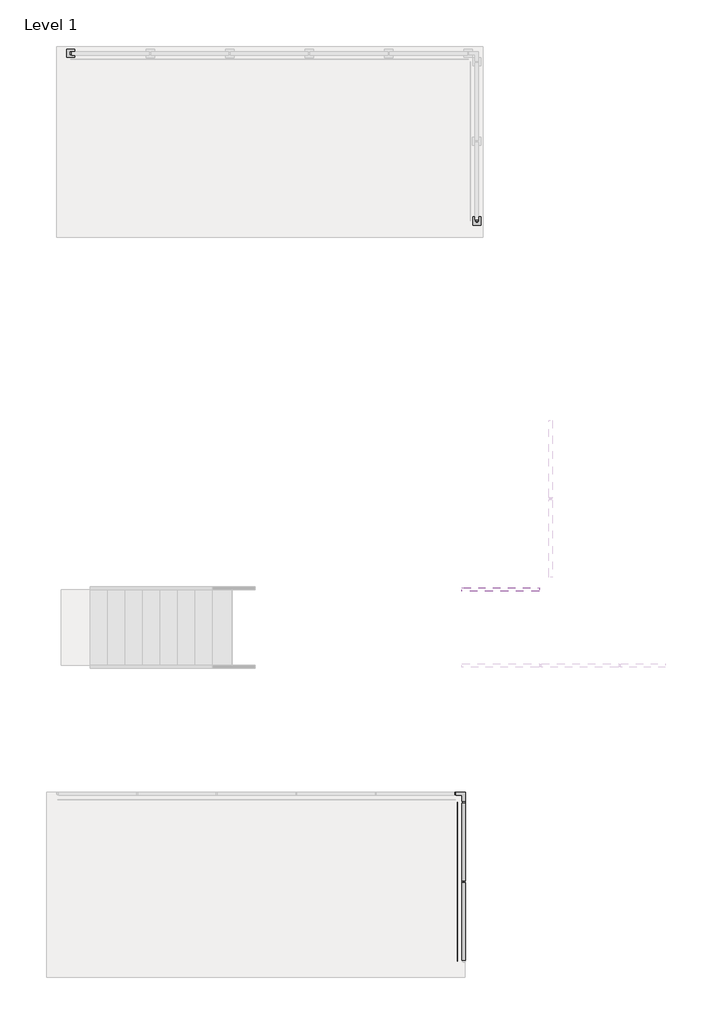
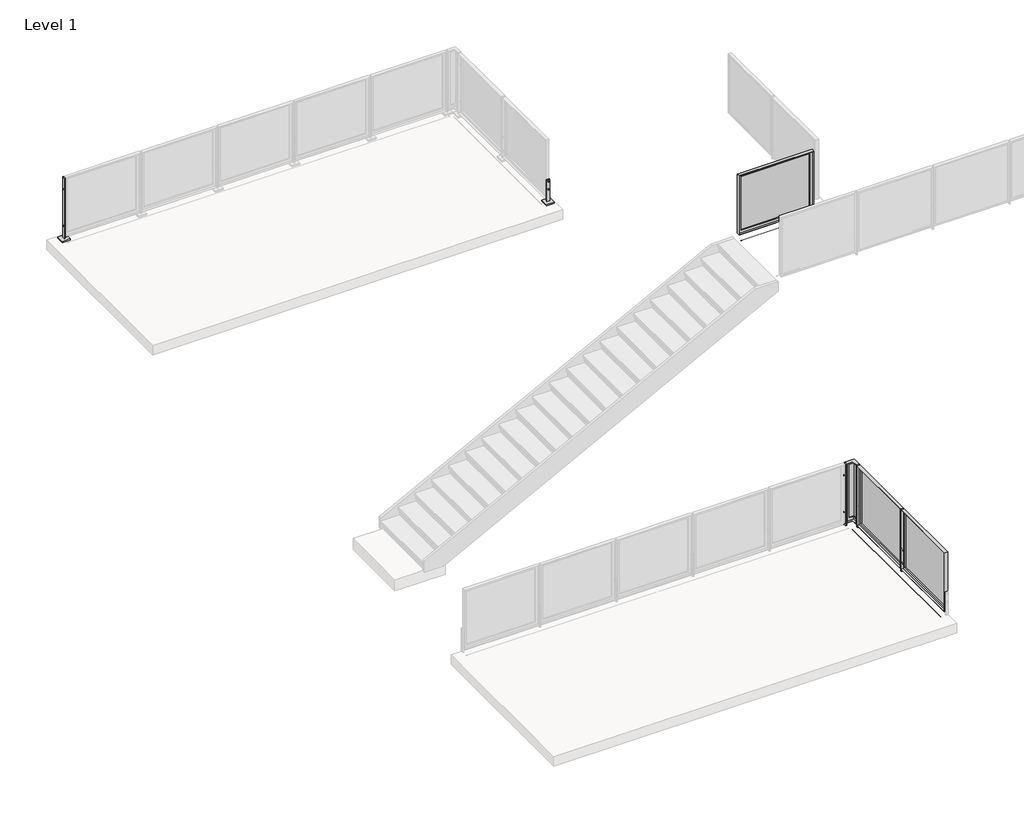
# One storey, part 3 of 37: 5 proxies, 3 railings.
"""IFC4 building model written with IfcOpenShell, lengths in millimetres."""

from ifc_helpers import new_model, si_unit, point, frame, frame_2d, origin, origin_with_axes, place, context, project, spatial, polyline, circle_curve, trimmed, segment, composite_curve, outline, extrude, faceted_brep, transform, mapped, element, save
from ifc_brep_helpers import plane_surface, cylinder_surface, advanced_brep
from components import baluster_end_post_viva_frame_top_mount_efd1a991, baluster_end_post_viva_frame_top_mount_8495f7c5, baluster_end_post_viva_frame_top_mount_welded_steel_channel_f5500c4d, baluster_end_post_viva_frame_top_mount_welded_steel_channel_d86172e0, baluster_corner_panel_viva_frame_inside_standard_6796b24e

model = new_model("IFC4")

# Units and contexts
model_context = context("Model", 3, world=origin())
ifc_project = project(units=[si_unit("LENGTHUNIT", "METRE", prefix="MILLI")], contexts=[model_context])

# Site, building, storey
site = spatial("IfcSite", under=ifc_project)
building = spatial("IfcBuilding", under=site)
storey = spatial("IfcBuildingStorey", under=building, Name="Level 1", Elevation=0.0)

# Proxies
placement = place(None, origin())
baluster_end_post_viva_frame_top_mount_shape = baluster_end_post_viva_frame_top_mount_efd1a991(model_context)
element("IfcBuildingElementProxy", 1, Name="Baluster-End-Post-VIVA-FRAME-Top Mount : ANCHORED TO CONCRETE_TOP MOUNT FOLD_STRAIGHT", ObjectType="Baluster-End-Post-VIVA-FRAME-Top Mount : ANCHORED TO CONCRETE_TOP MOUNT FOLD_STRAIGHT", at=placement, inside=storey, context=model_context, shape_type="MappedRepresentation", body=[
    mapped(baluster_end_post_viva_frame_top_mount_shape, transform((-32869.9472593, -24328.2049932, -0.508), x_axis=(0.0, 1.0, 0.0), y_axis=(-1.0, 0.0, 0.0), z_axis=(0.0, 0.0, 1.0))),
])
baluster_end_post_viva_frame_top_mount_2_shape = baluster_end_post_viva_frame_top_mount_8495f7c5(model_context)
element("IfcBuildingElementProxy", 2, Name="Baluster-End-Post-VIVA-FRAME-Top Mount : ANCHORED TO CONCRETE_TOP MOUNT FOLD_STRAIGHT", ObjectType="Baluster-End-Post-VIVA-FRAME-Top Mount : ANCHORED TO CONCRETE_TOP MOUNT FOLD_STRAIGHT", at=placement, inside=storey, context=model_context, shape_type="MappedRepresentation", body=[
    mapped(baluster_end_post_viva_frame_top_mount_2_shape, transform((-39257.4137821, -21750.6777859, -0.508), x_axis=(-1.0, 0.0, 0.0), y_axis=(0.0, -1.0, 0.0), z_axis=(0.0, 0.0, 1.0))),
])
baluster_end_post_viva_frame_top_mount_welded_steel_channel_shape = baluster_end_post_viva_frame_top_mount_welded_steel_channel_f5500c4d(model_context)
element("IfcBuildingElementProxy", 3, Name="Baluster-End-Post-VIVA-FRAME-Top Mount : WELDED STEEL CHANNEL_TOP MOUNT FOLD_STRAIGHT", ObjectType="Baluster-End-Post-VIVA-FRAME-Top Mount : WELDED STEEL CHANNEL_TOP MOUNT FOLD_STRAIGHT", at=placement, inside=storey, context=model_context, shape_type="MappedRepresentation", body=[
    mapped(baluster_end_post_viva_frame_top_mount_welded_steel_channel_shape, transform((-33077.7262871, -33609.5299436, -0.508), x_axis=(0.0, 1.0, 0.0), y_axis=(-1.0, 0.0, 0.0), z_axis=(0.0, 0.0, 1.0))),
])
baluster_end_post_viva_frame_top_mount_welded_steel_channel_2_shape = baluster_end_post_viva_frame_top_mount_welded_steel_channel_d86172e0(model_context)
element("IfcBuildingElementProxy", 4, Name="Baluster-End-Post-VIVA-FRAME-Top Mount : WELDED STEEL CHANNEL_TOP MOUNT FOLD_STRAIGHT", ObjectType="Baluster-End-Post-VIVA-FRAME-Top Mount : WELDED STEEL CHANNEL_TOP MOUNT FOLD_STRAIGHT", at=placement, inside=storey, context=model_context, shape_type="MappedRepresentation", body=[
    mapped(baluster_end_post_viva_frame_top_mount_welded_steel_channel_2_shape, transform((-33114.9234675, -33571.9733743, -0.508), x_axis=(-1.0, 0.0, 0.0), y_axis=(0.0, -1.0, 0.0), z_axis=(0.0, 0.0, 1.0))),
])
element("IfcBuildingElementProxy", 5, Name="Baluster-End-Post-VIVA-FRAME-Top Mount : WELDED STEEL CHANNEL_TOP MOUNT FOLD_STRAIGHT", ObjectType="Baluster-End-Post-VIVA-FRAME-Top Mount : WELDED STEEL CHANNEL_TOP MOUNT FOLD_STRAIGHT", at=placement, inside=storey, context=model_context, shape_type="MappedRepresentation", body=[
    mapped(baluster_end_post_viva_frame_top_mount_welded_steel_channel_2_shape, transform((-33114.9234675, -33571.9733743, -0.508), x_axis=(-1.0, 0.0, 0.0), y_axis=(0.0, -1.0, 0.0), z_axis=(0.0, 0.0, 1.0))),
])

# Railings
baluster_corner_panel_viva_frame_inside_standard_shape = baluster_corner_panel_viva_frame_inside_standard_6796b24e(model_context)
element("IfcRailing", 6, ObjectType="Baluster-Corner-Panel-VIVA-FRAME : Inside_Standard", at=placement, inside=storey, context=model_context, shape_type="MappedRepresentation", body=[
    mapped(baluster_corner_panel_viva_frame_inside_standard_shape, transform((-32954.9158871, -33449.1629743, -25.654), x_axis=(-1.0, 0.0, 0.0), y_axis=(0.0, -1.0, 0.0), z_axis=(0.0, 0.0, 1.0))),
])
element("IfcRailing", 7, ObjectType="Metal-Panel-VIVA-FRAME-Slab-Top-Weld-Straight", at=placement, inside=storey, context=model_context, shape_type="SolidModel", body=[
    extrude(outline(composite_curve([segment(trimmed(circle_curve(frame_2d((-0.254, -33077.7262871)), 0.254), [point((-0.254, -33077.9802871))], [point((-0.254, -33077.4722871))], False, "CARTESIAN"), True, "CONTINUOUS"), segment(trimmed(circle_curve(frame_2d((-0.254, -33077.7262871)), 0.254), [point((-0.254, -33077.4722871))], [point((-0.254, -33077.9802871))], False, "CARTESIAN"), True, "CONTINUOUS")], self_intersect=False)), frame((0.0, -36149.5299436, 0.0), z_axis=(0.0, 1.0, 0.0), x_axis=(0.0, 0.0, 1.0)), (0.0, 0.0, 1.0), 2540.0),
    extrude(outline(composite_curve([segment(trimmed(circle_curve(frame_2d((-0.254, -33077.7262871)), 0.254), [point((-0.254, -33077.9802871))], [point((-0.254, -33077.4722871))], False, "CARTESIAN"), True, "CONTINUOUS"), segment(trimmed(circle_curve(frame_2d((-0.254, -33077.7262871)), 0.254), [point((-0.254, -33077.4722871))], [point((-0.254, -33077.9802871))], False, "CARTESIAN"), True, "CONTINUOUS")], self_intersect=False)), frame((0.0, -36149.5299436, 0.0), z_axis=(0.0, 1.0, 0.0), x_axis=(0.0, 0.0, 1.0)), (0.0, 0.0, 1.0), 2540.0),
    extrude(outline(polyline([(-32954.9158871, -34920.3564006), (-32954.9158871, -36108.7034867), (-32957.9158871, -36108.7034867), (-32957.9158871, -34920.3564006), (-32954.9158871, -34920.3564006)])), frame((0.0, 0.0, 76.1959569), z_axis=(0.0, 0.0, 1.0), x_axis=(1.0, 0.0, 0.0)), (0.0, 0.0, 1.0), 990.5826861),
    faceted_brep([(-32954.9158871, -34894.9564006, 1092.1786431), (-32954.9158871, -36134.1034867, 1092.1786431), (-32954.9158871, -36134.1034867, 50.7959569), (-32954.9158871, -34894.9564006, 50.7959569), (-32954.9158871, -34920.3564006, 1066.7786431), (-32954.9158871, -34920.3564006, 76.1959569), (-32954.9158871, -36108.7034867, 76.1959569), (-32954.9158871, -36108.7034867, 1066.7786431), (-32957.9158871, -34920.3564006, 76.1959569), (-32957.9158871, -36108.7034867, 76.1959569), (-32957.9158871, -36108.7034867, 1066.7786431), (-32957.9158871, -34920.3564006, 1066.7786431), (-33008.7158871, -34900.9508006, 56.7903569), (-33008.7158871, -36128.1090867, 56.7903569), (-32977.9056871, -36128.1090867, 56.7903569), (-32977.9056871, -34900.9508006, 56.7903569), (-33008.7158871, -36128.1090867, 1086.1842431), (-32977.9056871, -36128.1090867, 1086.1842431), (-32977.9056871, -34900.9508006, 1086.1842431), (-33008.7158871, -34900.9508006, 1086.1842431), (-33008.7158871, -36134.1034867, 50.7959569), (-33008.7158871, -36134.1034867, 1092.1786431), (-33008.7158871, -34894.9564006, 1092.1786431), (-33008.7158871, -34894.9564006, 50.7959569), (-32957.9158871, -34945.7564006, 1041.3786431), (-32957.9158871, -34945.7564006, 101.5959569), (-32957.9158871, -36083.3034867, 101.5959569), (-32957.9158871, -36083.3034867, 1041.3786431), (-32977.9056871, -36083.3034867, 101.5959569), (-32977.9056871, -34945.7564006, 101.5959569), (-32977.9056871, -34945.7564006, 1041.3786431), (-32977.9056871, -36083.3034867, 1041.3786431)], [[[0, 1, 2, 3], [4, 5, 6, 7]], [[5, 8, 9, 6]], [[6, 9, 10, 7]], [[7, 10, 11, 4]], [[4, 11, 8, 5]], [[12, 13, 14, 15]], [[13, 16, 17, 14]], [[15, 18, 19, 12]], [[20, 21, 22, 23], [12, 19, 16, 13]], [[23, 22, 0, 3]], [[23, 3, 2, 20]], [[2, 1, 21, 20]], [[22, 21, 1, 0]], [[11, 10, 9, 8], [24, 25, 26, 27]], [[14, 17, 18, 15], [28, 29, 30, 31]], [[18, 17, 16, 19]], [[27, 31, 30, 24]], [[26, 28, 31, 27]], [[25, 29, 28, 26]], [[24, 30, 29, 25]]]),
    advanced_brep(
    [(-32981.8158871, -34853.3425436, 130.1496), (-32981.8158871, -34853.3425436, 139.7), (-32981.8158871, -34853.3425436, 149.2504), (-32981.8158871, -34858.1177436, 130.1496), (-32981.8158871, -34858.1177436, 149.2504), (-32981.8158871, -34858.1177436, 134.9248), (-32981.8158871, -34858.1177436, 144.4752), (-32981.8158871, -34900.9421436, 134.9248), (-32981.8158871, -34900.9421436, 144.4752), (-32981.8158871, -34900.9421436, 130.1496), (-32981.8158871, -34900.9421436, 149.2504), (-32981.8158871, -34905.7173436, 130.1496), (-32981.8158871, -34905.7173436, 149.2504), (-32981.8158871, -34905.7173436, 139.7)],
    [
        (0, 1),
        (1, 2),
        (2, 0, circle_curve(frame((-32981.8158871, -34853.3425436, 139.7), z_axis=(0.0, 1.0, 0.0), x_axis=(0.0, 0.0, 1.0)), 9.5504)),
        (0, 2, circle_curve(frame((-32981.8158871, -34853.3425436, 139.7), z_axis=(0.0, 1.0, 0.0), x_axis=(0.0, 0.0, 1.0)), 9.5504)),
        (3, 0),
        (2, 4),
        (4, 3, circle_curve(frame((-32981.8158871, -34858.1177436, 139.7), z_axis=(0.0, 1.0, 0.0), x_axis=(0.0, 0.0, 1.0)), 9.5504)),
        (3, 4, circle_curve(frame((-32981.8158871, -34858.1177436, 139.7), z_axis=(0.0, 1.0, 0.0), x_axis=(0.0, 0.0, 1.0)), 9.5504)),
        (5, 3),
        (4, 6),
        (6, 5, circle_curve(frame((-32981.8158871, -34858.1177436, 139.7), z_axis=(0.0, 1.0, 0.0), x_axis=(0.0, 0.0, 1.0)), 4.7752)),
        (5, 6, circle_curve(frame((-32981.8158871, -34858.1177436, 139.7), z_axis=(0.0, 1.0, 0.0), x_axis=(0.0, 0.0, 1.0)), 4.7752)),
        (7, 5),
        (6, 8),
        (8, 7, circle_curve(frame((-32981.8158871, -34900.9421436, 139.7), z_axis=(0.0, 1.0, 0.0), x_axis=(0.0, 0.0, 1.0)), 4.7752)),
        (7, 8, circle_curve(frame((-32981.8158871, -34900.9421436, 139.7), z_axis=(0.0, 1.0, 0.0), x_axis=(0.0, 0.0, 1.0)), 4.7752)),
        (9, 7),
        (8, 10),
        (10, 9, circle_curve(frame((-32981.8158871, -34900.9421436, 139.7), z_axis=(0.0, 1.0, 0.0), x_axis=(0.0, 0.0, 1.0)), 9.5504)),
        (9, 10, circle_curve(frame((-32981.8158871, -34900.9421436, 139.7), z_axis=(0.0, 1.0, 0.0), x_axis=(0.0, 0.0, 1.0)), 9.5504)),
        (11, 9),
        (10, 12),
        (12, 11, circle_curve(frame((-32981.8158871, -34905.7173436, 139.7), z_axis=(0.0, 1.0, 0.0), x_axis=(0.0, 0.0, 1.0)), 9.5504)),
        (11, 12, circle_curve(frame((-32981.8158871, -34905.7173436, 139.7), z_axis=(0.0, 1.0, 0.0), x_axis=(0.0, 0.0, 1.0)), 9.5504)),
        (13, 11),
        (12, 13),
    ],
    [
        plane_surface(frame((-32981.8158871, -34853.3425436, 139.7), z_axis=(0.0, 1.0, 0.0), x_axis=(0.0, 0.0, 1.0))),
        cylinder_surface(frame((-32981.8158871, -31461.7621865, 139.7), z_axis=(0.0, -1.0, 0.0), x_axis=(0.0, 0.0, 1.0)), 9.5504),
        plane_surface(frame((-32981.8158871, -34858.1177436, 139.7), z_axis=(0.0, -1.0, 0.0), x_axis=(0.0, 0.0, 1.0))),
        cylinder_surface(frame((-32981.8158871, -31461.7621865, 139.7), z_axis=(0.0, -1.0, 0.0), x_axis=(0.0, 0.0, 1.0)), 4.7752),
        plane_surface(frame((-32981.8158871, -34900.9421436, 139.7), z_axis=(0.0, 1.0, 0.0), x_axis=(0.0, 0.0, 1.0))),
        plane_surface(frame((-32981.8158871, -34905.7173436, 139.7), z_axis=(0.0, -1.0, 0.0), x_axis=(0.0, 0.0, 1.0))),
    ],
    [
        (0, [[1, 2, 3]]),
        (0, [[-2, -1, 4]]),
        (1, [[5, -3, 6, 7]]),
        (1, [[-6, -4, -5, 8]]),
        (2, [[9, -7, 10, 11]]),
        (2, [[-10, -8, -9, 12]]),
        (3, [[13, -11, 14, 15]]),
        (3, [[-14, -12, -13, 16]]),
        (4, [[17, -15, 18, 19]]),
        (4, [[-18, -16, -17, 20]]),
        (1, [[21, -19, 22, 23]]),
        (1, [[-22, -20, -21, 24]]),
        (5, [[25, -23, 26]]),
        (5, [[-26, -24, -25]]),
    ],
),
    advanced_brep(
    [(-32981.8158871, -34853.3425436, 371.4496), (-32981.8158871, -34853.3425436, 381.0), (-32981.8158871, -34853.3425436, 390.5504), (-32981.8158871, -34858.1177436, 371.4496), (-32981.8158871, -34858.1177436, 390.5504), (-32981.8158871, -34858.1177436, 376.2248), (-32981.8158871, -34858.1177436, 385.7752), (-32981.8158871, -34900.9421436, 376.2248), (-32981.8158871, -34900.9421436, 385.7752), (-32981.8158871, -34900.9421436, 371.4496), (-32981.8158871, -34900.9421436, 390.5504), (-32981.8158871, -34905.7173436, 371.4496), (-32981.8158871, -34905.7173436, 390.5504), (-32981.8158871, -34905.7173436, 381.0)],
    [
        (0, 1),
        (1, 2),
        (2, 0, circle_curve(frame((-32981.8158871, -34853.3425436, 381.0), z_axis=(0.0, 1.0, 0.0), x_axis=(0.0, 0.0, 1.0)), 9.5504)),
        (0, 2, circle_curve(frame((-32981.8158871, -34853.3425436, 381.0), z_axis=(0.0, 1.0, 0.0), x_axis=(0.0, 0.0, 1.0)), 9.5504)),
        (3, 0),
        (2, 4),
        (4, 3, circle_curve(frame((-32981.8158871, -34858.1177436, 381.0), z_axis=(0.0, 1.0, 0.0), x_axis=(0.0, 0.0, 1.0)), 9.5504)),
        (3, 4, circle_curve(frame((-32981.8158871, -34858.1177436, 381.0), z_axis=(0.0, 1.0, 0.0), x_axis=(0.0, 0.0, 1.0)), 9.5504)),
        (5, 3),
        (4, 6),
        (6, 5, circle_curve(frame((-32981.8158871, -34858.1177436, 381.0), z_axis=(0.0, 1.0, 0.0), x_axis=(0.0, 0.0, 1.0)), 4.7752)),
        (5, 6, circle_curve(frame((-32981.8158871, -34858.1177436, 381.0), z_axis=(0.0, 1.0, 0.0), x_axis=(0.0, 0.0, 1.0)), 4.7752)),
        (7, 5),
        (6, 8),
        (8, 7, circle_curve(frame((-32981.8158871, -34900.9421436, 381.0), z_axis=(0.0, 1.0, 0.0), x_axis=(0.0, 0.0, 1.0)), 4.7752)),
        (7, 8, circle_curve(frame((-32981.8158871, -34900.9421436, 381.0), z_axis=(0.0, 1.0, 0.0), x_axis=(0.0, 0.0, 1.0)), 4.7752)),
        (9, 7),
        (8, 10),
        (10, 9, circle_curve(frame((-32981.8158871, -34900.9421436, 381.0), z_axis=(0.0, 1.0, 0.0), x_axis=(0.0, 0.0, 1.0)), 9.5504)),
        (9, 10, circle_curve(frame((-32981.8158871, -34900.9421436, 381.0), z_axis=(0.0, 1.0, 0.0), x_axis=(0.0, 0.0, 1.0)), 9.5504)),
        (11, 9),
        (10, 12),
        (12, 11, circle_curve(frame((-32981.8158871, -34905.7173436, 381.0), z_axis=(0.0, 1.0, 0.0), x_axis=(0.0, 0.0, 1.0)), 9.5504)),
        (11, 12, circle_curve(frame((-32981.8158871, -34905.7173436, 381.0), z_axis=(0.0, 1.0, 0.0), x_axis=(0.0, 0.0, 1.0)), 9.5504)),
        (13, 11),
        (12, 13),
    ],
    [
        plane_surface(frame((-32981.8158871, -34853.3425436, 381.0), z_axis=(0.0, 1.0, 0.0), x_axis=(0.0, 0.0, 1.0))),
        cylinder_surface(frame((-32981.8158871, -31461.7621865, 381.0), z_axis=(0.0, -1.0, 0.0), x_axis=(0.0, 0.0, 1.0)), 9.5504),
        plane_surface(frame((-32981.8158871, -34858.1177436, 381.0), z_axis=(0.0, -1.0, 0.0), x_axis=(0.0, 0.0, 1.0))),
        cylinder_surface(frame((-32981.8158871, -31461.7621865, 381.0), z_axis=(0.0, -1.0, 0.0), x_axis=(0.0, 0.0, 1.0)), 4.7752),
        plane_surface(frame((-32981.8158871, -34900.9421436, 381.0), z_axis=(0.0, 1.0, 0.0), x_axis=(0.0, 0.0, 1.0))),
        plane_surface(frame((-32981.8158871, -34905.7173436, 381.0), z_axis=(0.0, -1.0, 0.0), x_axis=(0.0, 0.0, 1.0))),
    ],
    [
        (0, [[1, 2, 3]]),
        (0, [[-2, -1, 4]]),
        (1, [[5, -3, 6, 7]]),
        (1, [[-6, -4, -5, 8]]),
        (2, [[9, -7, 10, 11]]),
        (2, [[-10, -8, -9, 12]]),
        (3, [[13, -11, 14, 15]]),
        (3, [[-14, -12, -13, 16]]),
        (4, [[17, -15, 18, 19]]),
        (4, [[-18, -16, -17, 20]]),
        (1, [[21, -19, 22, 23]]),
        (1, [[-22, -20, -21, 24]]),
        (5, [[25, -23, 26]]),
        (5, [[-26, -24, -25]]),
    ],
),
    extrude(outline(polyline([(-33004.0408871, -34871.590352), (-32959.5908871, -34871.590352), (-32959.5908871, -34887.4695353), (-33004.0408871, -34887.4695353), (-33004.0408871, -34871.590352)])), origin_with_axes(), (0.0, 0.0, 1.0), 406.4),
    extrude(outline(polyline([(-32954.9158871, -33650.3564006), (-32954.9158871, -34838.7034867), (-32957.9158871, -34838.7034867), (-32957.9158871, -33650.3564006), (-32954.9158871, -33650.3564006)])), frame((0.0, 0.0, 76.1959569), z_axis=(0.0, 0.0, 1.0), x_axis=(1.0, 0.0, 0.0)), (0.0, 0.0, 1.0), 990.5826861),
    faceted_brep([(-32954.9158871, -33624.9564006, 1092.1786431), (-32954.9158871, -34864.1034867, 1092.1786431), (-32954.9158871, -34864.1034867, 50.7959569), (-32954.9158871, -33624.9564006, 50.7959569), (-32954.9158871, -33650.3564006, 1066.7786431), (-32954.9158871, -33650.3564006, 76.1959569), (-32954.9158871, -34838.7034867, 76.1959569), (-32954.9158871, -34838.7034867, 1066.7786431), (-32957.9158871, -33650.3564006, 76.1959569), (-32957.9158871, -34838.7034867, 76.1959569), (-32957.9158871, -34838.7034867, 1066.7786431), (-32957.9158871, -33650.3564006, 1066.7786431), (-33008.7158871, -33630.9508006, 56.7903569), (-33008.7158871, -34858.1090867, 56.7903569), (-32977.9056871, -34858.1090867, 56.7903569), (-32977.9056871, -33630.9508006, 56.7903569), (-33008.7158871, -34858.1090867, 1086.1842431), (-32977.9056871, -34858.1090867, 1086.1842431), (-32977.9056871, -33630.9508006, 1086.1842431), (-33008.7158871, -33630.9508006, 1086.1842431), (-33008.7158871, -34864.1034867, 50.7959569), (-33008.7158871, -34864.1034867, 1092.1786431), (-33008.7158871, -33624.9564006, 1092.1786431), (-33008.7158871, -33624.9564006, 50.7959569), (-32957.9158871, -33675.7564006, 1041.3786431), (-32957.9158871, -33675.7564006, 101.5959569), (-32957.9158871, -34813.3034867, 101.5959569), (-32957.9158871, -34813.3034867, 1041.3786431), (-32977.9056871, -34813.3034867, 101.5959569), (-32977.9056871, -33675.7564006, 101.5959569), (-32977.9056871, -33675.7564006, 1041.3786431), (-32977.9056871, -34813.3034867, 1041.3786431)], [[[0, 1, 2, 3], [4, 5, 6, 7]], [[5, 8, 9, 6]], [[6, 9, 10, 7]], [[7, 10, 11, 4]], [[4, 11, 8, 5]], [[12, 13, 14, 15]], [[13, 16, 17, 14]], [[15, 18, 19, 12]], [[20, 21, 22, 23], [12, 19, 16, 13]], [[23, 22, 0, 3]], [[23, 3, 2, 20]], [[2, 1, 21, 20]], [[22, 21, 1, 0]], [[11, 10, 9, 8], [24, 25, 26, 27]], [[14, 17, 18, 15], [28, 29, 30, 31]], [[18, 17, 16, 19]], [[27, 31, 30, 24]], [[26, 28, 31, 27]], [[25, 29, 28, 26]], [[24, 30, 29, 25]]]),
])
element("IfcRailing", 8, ObjectType="Metal-Panel-VIVA-FRAME-Slab-Top-Weld-Straight", at=placement, inside=storey, context=model_context, shape_type="SolidModel", body=[
    extrude(outline(composite_curve([segment(trimmed(circle_curve(frame_2d((-30312.779539, 3047.746)), 0.254), [point((-30313.033539, 3047.746))], [point((-30312.525539, 3047.746))], False, "CARTESIAN"), True, "CONTINUOUS"), segment(trimmed(circle_curve(frame_2d((-30312.779539, 3047.746)), 0.254), [point((-30312.525539, 3047.746))], [point((-30313.033539, 3047.746))], False, "CARTESIAN"), True, "CONTINUOUS")], self_intersect=False)), frame((-33026.4063244, 0.0, 0.0), z_axis=(1.0, 0.0, 0.0), x_axis=(0.0, 1.0, 0.0)), (0.0, 0.0, 1.0), 1270.0),
    extrude(outline(composite_curve([segment(trimmed(circle_curve(frame_2d((-30312.779539, 3047.746)), 0.254), [point((-30313.033539, 3047.746))], [point((-30312.525539, 3047.746))], False, "CARTESIAN"), True, "CONTINUOUS"), segment(trimmed(circle_curve(frame_2d((-30312.779539, 3047.746)), 0.254), [point((-30312.525539, 3047.746))], [point((-30313.033539, 3047.746))], False, "CARTESIAN"), True, "CONTINUOUS")], self_intersect=False)), frame((-33026.4063244, 0.0, 0.0), z_axis=(1.0, 0.0, 0.0), x_axis=(0.0, 1.0, 0.0)), (0.0, 0.0, 1.0), 1270.0),
    extrude(outline(polyline([(-32985.5798675, -30189.969139), (-31797.2327814, -30189.969139), (-31797.2327814, -30192.969139), (-32985.5798675, -30192.969139), (-32985.5798675, -30189.969139)])), frame((0.0, 0.0, 3124.1959569), z_axis=(0.0, 0.0, 1.0), x_axis=(1.0, 0.0, 0.0)), (0.0, 0.0, 1.0), 990.5826861),
    faceted_brep([(-33010.9798675, -30189.969139, 4140.1786431), (-31771.8327814, -30189.969139, 4140.1786431), (-31771.8327814, -30189.969139, 3098.7959569), (-33010.9798675, -30189.969139, 3098.7959569), (-32985.5798675, -30189.969139, 4114.7786431), (-32985.5798675, -30189.969139, 3124.1959569), (-31797.2327814, -30189.969139, 3124.1959569), (-31797.2327814, -30189.969139, 4114.7786431), (-32985.5798675, -30192.969139, 3124.1959569), (-31797.2327814, -30192.969139, 3124.1959569), (-31797.2327814, -30192.969139, 4114.7786431), (-32985.5798675, -30192.969139, 4114.7786431), (-33004.9854675, -30243.769139, 3104.7903569), (-31777.8271814, -30243.769139, 3104.7903569), (-31777.8271814, -30212.958939, 3104.7903569), (-33004.9854675, -30212.958939, 3104.7903569), (-31777.8271814, -30243.769139, 4134.1842431), (-31777.8271814, -30212.958939, 4134.1842431), (-33004.9854675, -30212.958939, 4134.1842431), (-33004.9854675, -30243.769139, 4134.1842431), (-31771.8327814, -30243.769139, 3098.7959569), (-31771.8327814, -30243.769139, 4140.1786431), (-33010.9798675, -30243.769139, 4140.1786431), (-33010.9798675, -30243.769139, 3098.7959569), (-32960.1798675, -30192.969139, 4089.3786431), (-32960.1798675, -30192.969139, 3149.5959569), (-31822.6327814, -30192.969139, 3149.5959569), (-31822.6327814, -30192.969139, 4089.3786431), (-31822.6327814, -30212.958939, 3149.5959569), (-32960.1798675, -30212.958939, 3149.5959569), (-32960.1798675, -30212.958939, 4089.3786431), (-31822.6327814, -30212.958939, 4089.3786431)], [[[0, 1, 2, 3], [4, 5, 6, 7]], [[5, 8, 9, 6]], [[6, 9, 10, 7]], [[7, 10, 11, 4]], [[4, 11, 8, 5]], [[12, 13, 14, 15]], [[13, 16, 17, 14]], [[15, 18, 19, 12]], [[20, 21, 22, 23], [12, 19, 16, 13]], [[23, 22, 0, 3]], [[23, 3, 2, 20]], [[2, 1, 21, 20]], [[22, 21, 1, 0]], [[11, 10, 9, 8], [24, 25, 26, 27]], [[14, 17, 18, 15], [28, 29, 30, 31]], [[18, 17, 16, 19]], [[27, 31, 30, 24]], [[26, 28, 31, 27]], [[25, 29, 28, 26]], [[24, 30, 29, 25]]]),
])

save(model, "model.ifc")
